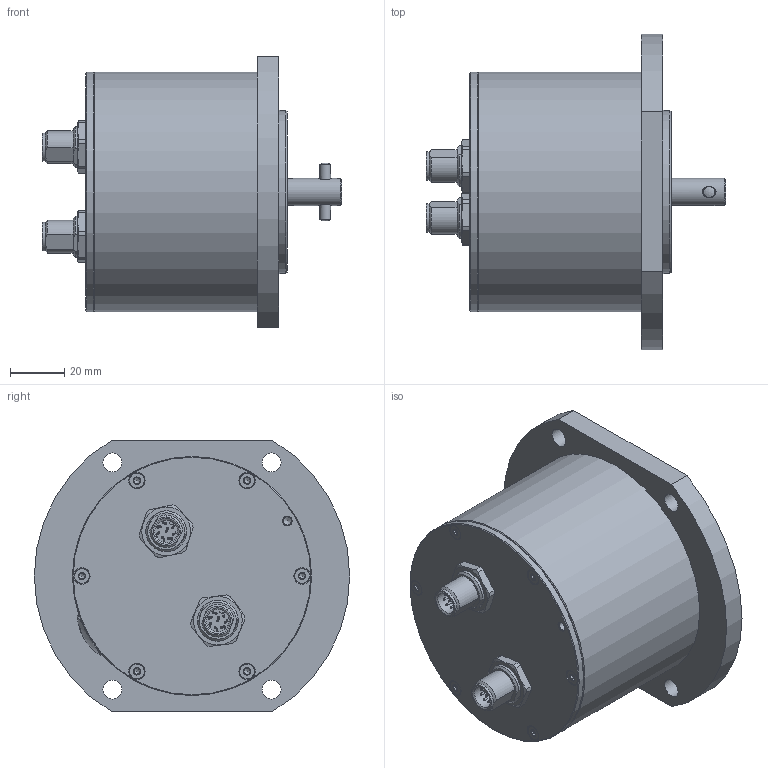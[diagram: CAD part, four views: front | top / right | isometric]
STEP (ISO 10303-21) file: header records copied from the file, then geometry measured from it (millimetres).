
FILE_DESCRIPTION(/* description */ ('XT00000118'),/* implementation_level */ '2;1');
FILE_NAME(/* name */ 'P:\Produkte\Sensoren\Magnetische Winkelsensoren - MT\XT\6 - 3D-Modell\XT00000118 - XTB90R 3D-Modell IBSMT65.stp',/* time_stamp */ '2016-06-03T15:05:39+02:00',/* author */ (''),/* organization */ ('IBS-Hühne GmbH'),/* preprocessor_version */ 'ST-DEVELOPER v16.5',/* originating_system */ 'Autodesk Inventor 2017',/* authorisation */ '');
FILE_SCHEMA (('AUTOMOTIVE_DESIGN { 1 0 10303 214 3 1 1 }'));
Length unit declared in the file: millimetre
Products named in the file (1): XTB90R - 3D-Modell
Bounding box: 110 x 116 x 100 mm (x, y, z)
Volume: 473750.8 mm3; surface area: 45867.4 mm2
Topology: 5 solids, 5 shells, 978 faces, 2623 edges, 1680 vertices
Faces by surface type: plane 404, cylinder 255, bspline 164, cone 85, sphere 51, torus 19
Full cylindrical faces by diameter (mm): 0.7 x4, 0.75 x16, 3 x2, 4 x2, 5.6 x6, 6 x6, 7 x4, 8.3 x2, 10 x1, 10.5 x2, 17 x1, 22 x1, 26 x1, 60 x1, 88 x2
Entity records: 32540 total; most frequent: CARTESIAN_POINT 9283, ORIENTED_EDGE 4838, DIRECTION 3956, EDGE_CURVE 2419, VERTEX_POINT 1619, LINE 1328, VECTOR 1328, AXIS2_PLACEMENT_3D 1314
